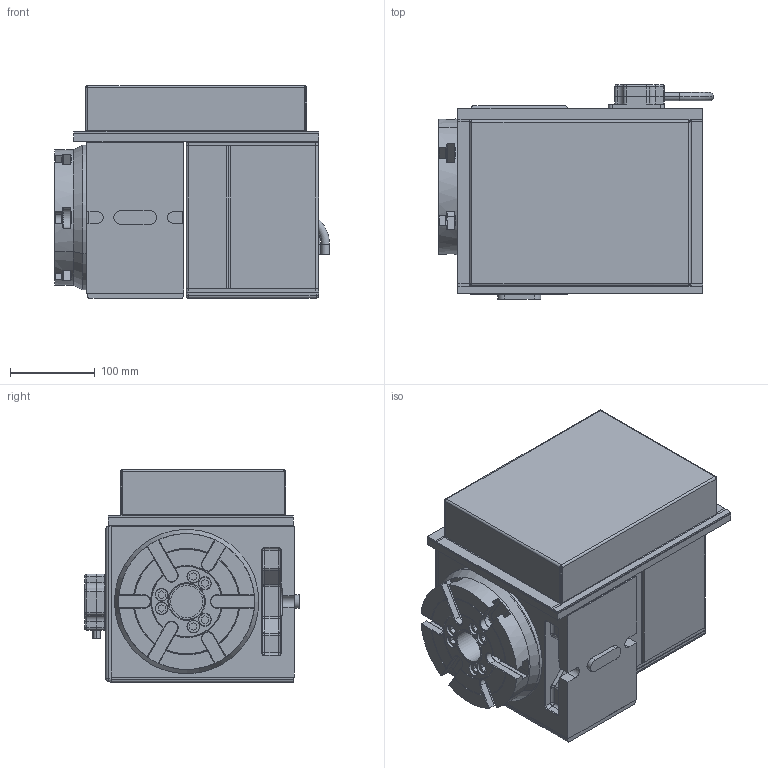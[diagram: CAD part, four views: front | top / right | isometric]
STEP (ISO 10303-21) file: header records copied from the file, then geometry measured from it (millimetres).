
FILE_DESCRIPTION (( 'STEP AP214' ), '1' );
FILE_NAME ('HRT160SP_STEP_10-2016.STEP', '2019-10-07T18:33:27', ( '' ), ( '' ), 'SwSTEP 2.0', 'SolidWorks 2019', '' );
FILE_SCHEMA (( 'AUTOMOTIVE_DESIGN' ));
Length unit declared in the file: inch
Products named in the file (4): Group1^10000118163_defeature; HRT160SP_STEP_10-2016; 10000117925-1^10000118163_defeature; Group2^10000118163_defeature
Assembly tree (3 placements, depth 2):
  HRT160SP_STEP_10-2016
    Group1^10000118163_defeature
    Group2^10000118163_defeature
    10000117925-1^10000118163_defeature
Bounding box: 323.98 x 252.86 x 250.76 mm (x, y, z)
Volume: 9557957.4 mm3; surface area: 823977.9 mm2
Topology: 4 solids, 4 shells, 1688 faces, 4591 edges, 2894 vertices
Faces by surface type: cylinder 572, sphere 484, plane 409, torus 143, cone 60, bspline 20
Entity records: 71741 total; most frequent: CARTESIAN_POINT 23279, DIRECTION 9166, ORIENTED_EDGE 9122, EDGE_CURVE 4561, AXIS2_PLACEMENT_3D 3821, VERTEX_POINT 2894, CIRCLE 2147, EDGE_LOOP 1781
